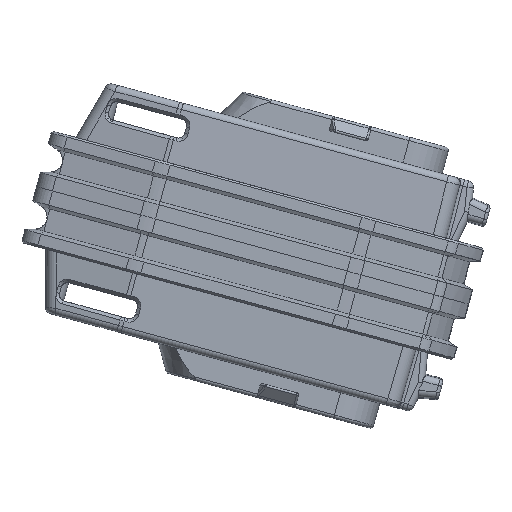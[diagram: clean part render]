
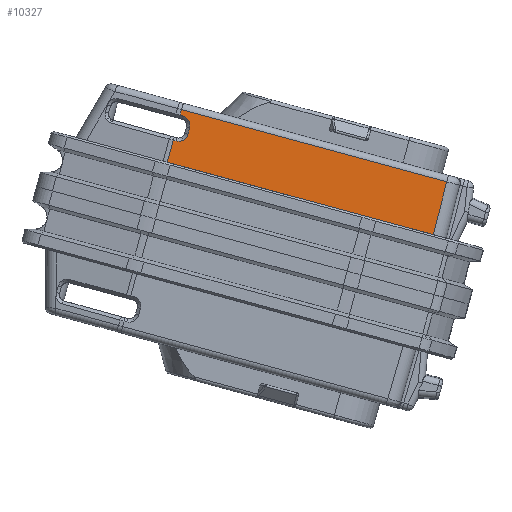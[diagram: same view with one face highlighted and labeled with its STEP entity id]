
A CAD part, front view. The second image highlights one B-rep face of the part: STEP entity #10327.
In plain terms, the highlighted planar face has unit normal (0.005, -1, 0.017).
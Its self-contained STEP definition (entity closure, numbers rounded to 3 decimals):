
#1451=PLANE('',#11149);
#1961=FACE_OUTER_BOUND('',#2569,.T.);
#2569=EDGE_LOOP('',(#8856,#8857,#8858,#8859,#8860,#8861,#8862,#8863,#8864,
#8865,#8866,#8867,#8868,#8869));
#3176=LINE('',#22693,#3900);
#3184=LINE('',#22757,#3908);
#3279=LINE('',#23573,#4003);
#3280=LINE('',#23575,#4004);
#3281=LINE('',#23577,#4005);
#3282=LINE('',#23578,#4006);
#3900=VECTOR('',#12822,10.);
#3908=VECTOR('',#12834,10.);
#4003=VECTOR('',#13171,10.);
#4004=VECTOR('',#13172,1000.);
#4005=VECTOR('',#13173,1000.);
#4006=VECTOR('',#13174,1000.);
#4404=B_SPLINE_CURVE_WITH_KNOTS('',3,(#21631,#21632,#21633,#21634,#21635,
#21636),.UNSPECIFIED.,.F.,.F.,(4,2,4),(-0.151,-0.114,
-0.076),.UNSPECIFIED.);
#4414=B_SPLINE_CURVE_WITH_KNOTS('',3,(#21860,#21861,#21862,#21863,#21864),
 .UNSPECIFIED.,.F.,.F.,(4,1,4),(-0.152,-0.114,-0.076),
 .UNSPECIFIED.);
#4415=B_SPLINE_CURVE_WITH_KNOTS('',3,(#21898,#21899,#21900,#21901,#21902,
#21903,#21904,#21905),.UNSPECIFIED.,.F.,.F.,(4,2,2,4),(-0.076,
-0.075,-0.038,0.),.UNSPECIFIED.);
#4421=B_SPLINE_CURVE_WITH_KNOTS('',3,(#21969,#21970,#21971,#21972),
 .UNSPECIFIED.,.F.,.F.,(4,4),(0.,0.001),.UNSPECIFIED.);
#4422=B_SPLINE_CURVE_WITH_KNOTS('',3,(#22003,#22004,#22005,#22006,#22007,
#22008),.UNSPECIFIED.,.F.,.F.,(4,2,4),(-0.044,-0.022,
0.),.UNSPECIFIED.);
#4435=B_SPLINE_CURVE_WITH_KNOTS('',3,(#22610,#22611,#22612,#22613,#22614,
#22615),.UNSPECIFIED.,.F.,.F.,(4,2,4),(0.,0.022,
0.043),.UNSPECIFIED.);
#4436=B_SPLINE_CURVE_WITH_KNOTS('',3,(#22660,#22661,#22662,#22663,#22664,
#22665,#22666,#22667,#22668,#22669,#22670),.UNSPECIFIED.,.F.,.F.,(4,2,1,
1,1,1,1,4),(-0.076,-0.075,-0.06,
-0.045,-0.03,-0.015,-0.007,
0.),.UNSPECIFIED.);
#4438=B_SPLINE_CURVE_WITH_KNOTS('',3,(#22713,#22714,#22715,#22716),
 .UNSPECIFIED.,.F.,.F.,(4,4),(-0.152,-0.151),
 .UNSPECIFIED.);
#4986=VERTEX_POINT('',#21624);
#4987=VERTEX_POINT('',#21629);
#4997=VERTEX_POINT('',#21843);
#4999=VERTEX_POINT('',#21858);
#5000=VERTEX_POINT('',#21897);
#5004=VERTEX_POINT('',#21938);
#5006=VERTEX_POINT('',#21968);
#5016=VERTEX_POINT('',#22606);
#5017=VERTEX_POINT('',#22608);
#5018=VERTEX_POINT('',#22692);
#5024=VERTEX_POINT('',#22756);
#5174=VERTEX_POINT('',#23572);
#5175=VERTEX_POINT('',#23574);
#5176=VERTEX_POINT('',#23576);
#6203=EDGE_CURVE('',#4987,#4986,#4404,.T.);
#6217=EDGE_CURVE('',#4999,#4997,#4414,.T.);
#6218=EDGE_CURVE('',#4997,#5000,#4415,.T.);
#6225=EDGE_CURVE('',#5000,#5006,#4421,.T.);
#6228=EDGE_CURVE('',#5004,#4999,#4422,.T.);
#6247=EDGE_CURVE('',#5017,#5016,#4435,.T.);
#6248=EDGE_CURVE('',#4986,#5017,#4436,.T.);
#6250=EDGE_CURVE('',#5006,#5018,#3176,.T.);
#6253=EDGE_CURVE('',#5018,#4987,#4438,.T.);
#6262=EDGE_CURVE('',#5016,#5024,#3184,.T.);
#6453=EDGE_CURVE('',#5174,#5004,#3279,.T.);
#6454=EDGE_CURVE('',#5174,#5175,#3280,.T.);
#6455=EDGE_CURVE('',#5176,#5175,#3281,.T.);
#6456=EDGE_CURVE('',#5024,#5176,#3282,.T.);
#8856=ORIENTED_EDGE('',*,*,#6228,.F.);
#8857=ORIENTED_EDGE('',*,*,#6453,.F.);
#8858=ORIENTED_EDGE('',*,*,#6454,.T.);
#8859=ORIENTED_EDGE('',*,*,#6455,.F.);
#8860=ORIENTED_EDGE('',*,*,#6456,.F.);
#8861=ORIENTED_EDGE('',*,*,#6262,.F.);
#8862=ORIENTED_EDGE('',*,*,#6247,.F.);
#8863=ORIENTED_EDGE('',*,*,#6248,.F.);
#8864=ORIENTED_EDGE('',*,*,#6203,.F.);
#8865=ORIENTED_EDGE('',*,*,#6253,.F.);
#8866=ORIENTED_EDGE('',*,*,#6250,.F.);
#8867=ORIENTED_EDGE('',*,*,#6225,.F.);
#8868=ORIENTED_EDGE('',*,*,#6218,.F.);
#8869=ORIENTED_EDGE('',*,*,#6217,.F.);
#10327=ADVANCED_FACE('',(#1961),#1451,.T.);
#11149=AXIS2_PLACEMENT_3D('',#23571,#13169,#13170);
#12822=DIRECTION('',(0.262,0.017,0.965));
#12834=DIRECTION('',(0.264,0.017,0.964));
#13169=DIRECTION('center_axis',(0.005,-1.,
0.017));
#13170=DIRECTION('ref_axis',(0.,0.017,1.));
#13171=DIRECTION('',(0.264,0.017,0.964));
#13172=DIRECTION('',(0.965,0.,-0.262));
#13173=DIRECTION('',(-0.245,-0.017,-0.969));
#13174=DIRECTION('',(0.965,0.,-0.262));
#21624=CARTESIAN_POINT('',(14.216,-185.712,138.451));
#21629=CARTESIAN_POINT('',(14.361,-185.73,137.357));
#21631=CARTESIAN_POINT('Ctrl Pts',(14.361,-185.73,137.357));
#21632=CARTESIAN_POINT('Ctrl Pts',(14.407,-185.727,137.531));
#21633=CARTESIAN_POINT('Ctrl Pts',(14.425,-185.724,137.719));
#21634=CARTESIAN_POINT('Ctrl Pts',(14.375,-185.717,138.109));
#21635=CARTESIAN_POINT('Ctrl Pts',(14.308,-185.714,138.292));
#21636=CARTESIAN_POINT('Ctrl Pts',(14.216,-185.712,138.451));
#21843=CARTESIAN_POINT('',(13.415,-185.766,135.499));
#21858=CARTESIAN_POINT('',(12.309,-185.773,135.358));
#21860=CARTESIAN_POINT('Ctrl Pts',(12.309,-185.773,135.358));
#21861=CARTESIAN_POINT('Ctrl Pts',(12.486,-185.773,135.31));
#21862=CARTESIAN_POINT('Ctrl Pts',(12.882,-185.772,135.272));
#21863=CARTESIAN_POINT('Ctrl Pts',(13.256,-185.768,135.408));
#21864=CARTESIAN_POINT('Ctrl Pts',(13.415,-185.766,135.499));
#21897=CARTESIAN_POINT('',(14.096,-185.748,136.38));
#21898=CARTESIAN_POINT('Ctrl Pts',(13.415,-185.766,135.499));
#21899=CARTESIAN_POINT('Ctrl Pts',(13.418,-185.765,135.501));
#21900=CARTESIAN_POINT('Ctrl Pts',(13.42,-185.765,135.502));
#21901=CARTESIAN_POINT('Ctrl Pts',(13.578,-185.763,135.594));
#21902=CARTESIAN_POINT('Ctrl Pts',(13.726,-185.76,135.715));
#21903=CARTESIAN_POINT('Ctrl Pts',(13.967,-185.754,136.027));
#21904=CARTESIAN_POINT('Ctrl Pts',(14.048,-185.751,136.203));
#21905=CARTESIAN_POINT('Ctrl Pts',(14.096,-185.748,136.38));
#21938=CARTESIAN_POINT('',(11.884,-185.773,135.474));
#21968=CARTESIAN_POINT('',(14.098,-185.747,136.389));
#21969=CARTESIAN_POINT('Ctrl Pts',(14.096,-185.748,136.38));
#21970=CARTESIAN_POINT('Ctrl Pts',(14.096,-185.748,136.383));
#21971=CARTESIAN_POINT('Ctrl Pts',(14.097,-185.747,136.386));
#21972=CARTESIAN_POINT('Ctrl Pts',(14.098,-185.747,136.389));
#22003=CARTESIAN_POINT('Ctrl Pts',(11.884,-185.773,135.474));
#22004=CARTESIAN_POINT('Ctrl Pts',(11.955,-185.773,135.454));
#22005=CARTESIAN_POINT('Ctrl Pts',(12.025,-185.773,135.435));
#22006=CARTESIAN_POINT('Ctrl Pts',(12.167,-185.773,135.396));
#22007=CARTESIAN_POINT('Ctrl Pts',(12.238,-185.773,135.377));
#22008=CARTESIAN_POINT('Ctrl Pts',(12.309,-185.773,135.357));
#22606=CARTESIAN_POINT('',(12.917,-185.705,139.245));
#22608=CARTESIAN_POINT('',(13.335,-185.705,139.132));
#22610=CARTESIAN_POINT('Ctrl Pts',(13.335,-185.705,139.132));
#22611=CARTESIAN_POINT('Ctrl Pts',(13.265,-185.705,139.151));
#22612=CARTESIAN_POINT('Ctrl Pts',(13.195,-185.705,139.17));
#22613=CARTESIAN_POINT('Ctrl Pts',(13.056,-185.705,139.208));
#22614=CARTESIAN_POINT('Ctrl Pts',(12.986,-185.705,139.226));
#22615=CARTESIAN_POINT('Ctrl Pts',(12.917,-185.705,139.245));
#22660=CARTESIAN_POINT('Ctrl Pts',(14.216,-185.712,138.451));
#22661=CARTESIAN_POINT('Ctrl Pts',(14.215,-185.712,138.453));
#22662=CARTESIAN_POINT('Ctrl Pts',(14.213,-185.712,138.456));
#22663=CARTESIAN_POINT('Ctrl Pts',(14.175,-185.711,138.521));
#22664=CARTESIAN_POINT('Ctrl Pts',(14.091,-185.709,138.644));
#22665=CARTESIAN_POINT('Ctrl Pts',(13.934,-185.707,138.814));
#22666=CARTESIAN_POINT('Ctrl Pts',(13.745,-185.706,138.959));
#22667=CARTESIAN_POINT('Ctrl Pts',(13.572,-185.705,139.048));
#22668=CARTESIAN_POINT('Ctrl Pts',(13.438,-185.705,139.101));
#22669=CARTESIAN_POINT('Ctrl Pts',(13.359,-185.705,139.125));
#22670=CARTESIAN_POINT('Ctrl Pts',(13.334,-185.705,139.132));
#22692=CARTESIAN_POINT('',(14.358,-185.73,137.345));
#22693=CARTESIAN_POINT('',(13.584,-185.782,134.498));
#22713=CARTESIAN_POINT('Ctrl Pts',(14.358,-185.73,137.345));
#22714=CARTESIAN_POINT('Ctrl Pts',(14.359,-185.73,137.349));
#22715=CARTESIAN_POINT('Ctrl Pts',(14.36,-185.73,137.353));
#22716=CARTESIAN_POINT('Ctrl Pts',(14.361,-185.73,137.357));
#22756=CARTESIAN_POINT('',(13.145,-185.69,140.078));
#22757=CARTESIAN_POINT('',(12.785,-185.713,138.763));
#23571=CARTESIAN_POINT('Origin',(26.127,-185.833,128.033));
#23572=CARTESIAN_POINT('',(10.974,-185.833,132.153));
#23573=CARTESIAN_POINT('',(10.974,-185.833,132.153));
#23574=CARTESIAN_POINT('',(51.043,-185.833,121.26));
#23575=CARTESIAN_POINT('',(26.127,-185.833,128.033));
#23576=CARTESIAN_POINT('',(53.06,-185.69,129.228));
#23577=CARTESIAN_POINT('',(51.034,-185.834,121.227));
#23578=CARTESIAN_POINT('',(53.044,-185.69,129.232));
